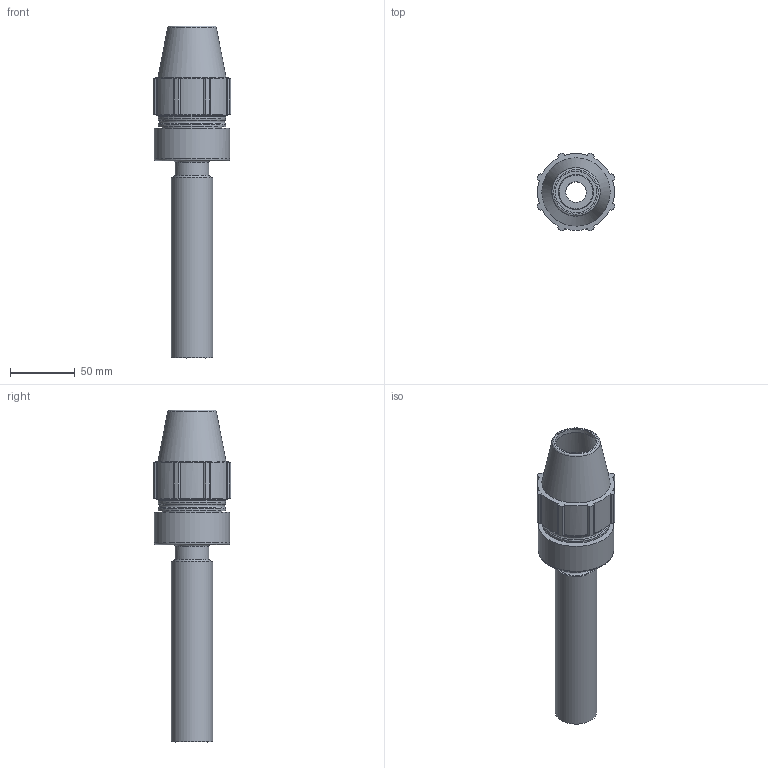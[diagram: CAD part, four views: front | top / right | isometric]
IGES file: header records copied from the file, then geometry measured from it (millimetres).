
Global section: file name: 074706032; native system: Autodesk Inventor 2019; preprocessor: unknown; author: comp2; date: 20230323.113514; units: millimetre
Bounding box: 60.22 x 60.22 x 257 mm (x, y, z)
Volume: 206819 mm3; surface area: 80558.1 mm2
Topology: 4 solids, 4 shells, 94 faces, 272 edges, 194 vertices
Faces by surface type: bspline 94
